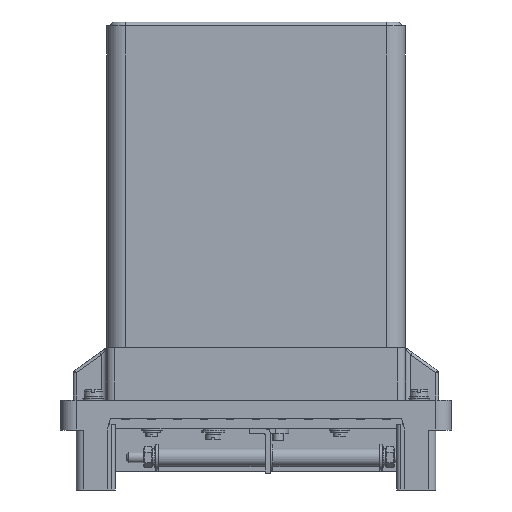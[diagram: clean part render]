
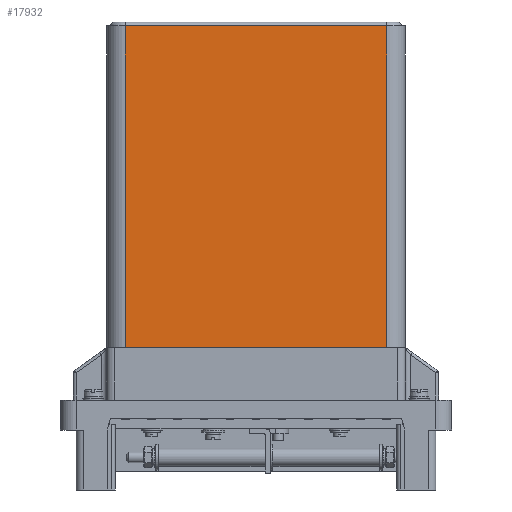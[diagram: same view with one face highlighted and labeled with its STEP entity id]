
A CAD part, left-side view. The second image highlights one B-rep face of the part: STEP entity #17932.
In plain terms, the highlighted planar face has unit normal (-1, 0, 0).
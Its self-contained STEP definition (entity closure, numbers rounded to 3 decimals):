
#17932=ADVANCED_FACE('',(#64644),#64646,.T.);
#64644=FACE_BOUND('',#64645,.T.);
#64645=EDGE_LOOP('',(#102599,#102600,#102601,#102602));
#64646=PLANE('',#64647);
#64647=AXIS2_PLACEMENT_3D('',#64648,#64649,#64650);
#64648=CARTESIAN_POINT('',(-32.15,50.15,31.5));
#64649=DIRECTION('',(-1.,0.,0.));
#64650=DIRECTION('',(0.,-1.,0.));
#102599=ORIENTED_EDGE('',*,*,#129912,.T.);
#102600=ORIENTED_EDGE('',*,*,#130583,.T.);
#102601=ORIENTED_EDGE('',*,*,#130584,.F.);
#102602=ORIENTED_EDGE('',*,*,#130585,.F.);
#129912=EDGE_CURVE('',#148511,#148509,#148512,.T.);
#130583=EDGE_CURVE('',#148509,#149637,#149639,.T.);
#130584=EDGE_CURVE('',#149640,#149637,#149641,.T.);
#130585=EDGE_CURVE('',#148511,#149640,#149642,.T.);
#148509=VERTEX_POINT('',#185243);
#148511=VERTEX_POINT('',#185248);
#148512=LINE('',#185249,#185250);
#149637=VERTEX_POINT('',#188259);
#149639=LINE('',#188264,#188265);
#149640=VERTEX_POINT('',#188267);
#149641=LINE('',#188268,#188269);
#149642=LINE('',#188271,#188272);
#185243=CARTESIAN_POINT('',(-32.15,-50.15,31.5));
#185248=CARTESIAN_POINT('',(-32.15,50.15,31.5));
#185249=CARTESIAN_POINT('',(-32.15,50.15,31.5));
#185250=VECTOR('',#185251,1.);
#185251=DIRECTION('',(0.,-1.,0.));
#188259=CARTESIAN_POINT('',(-32.15,-50.15,155.));
#188264=CARTESIAN_POINT('',(-32.15,-50.15,31.5));
#188265=VECTOR('',#188266,1.);
#188266=DIRECTION('',(0.,0.,1.));
#188267=CARTESIAN_POINT('',(-32.15,50.15,155.));
#188268=CARTESIAN_POINT('',(-32.15,50.15,155.));
#188269=VECTOR('',#188270,1.);
#188270=DIRECTION('',(0.,-1.,0.));
#188271=CARTESIAN_POINT('',(-32.15,50.15,31.5));
#188272=VECTOR('',#188273,1.);
#188273=DIRECTION('',(0.,0.,1.));
